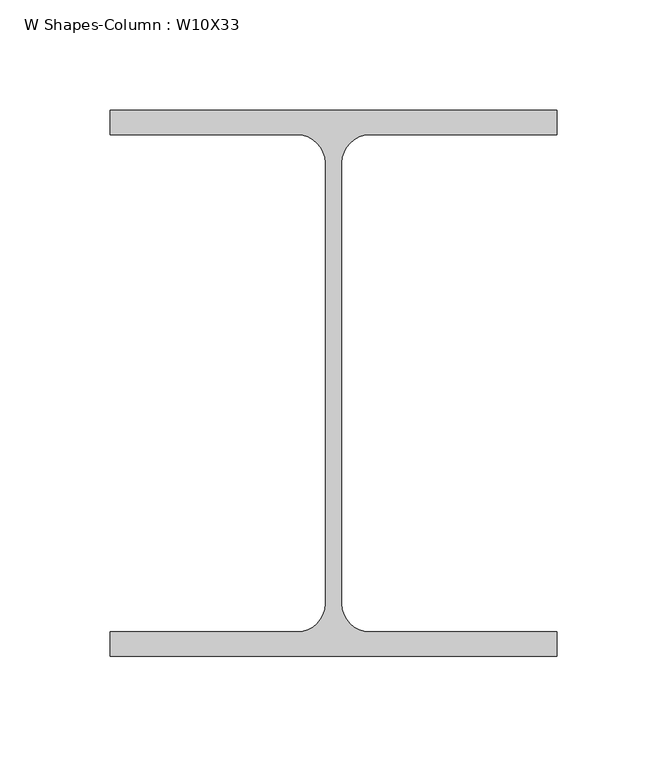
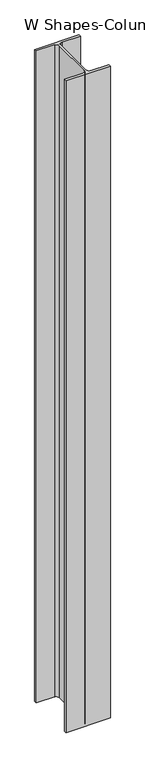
"""IFC4 building model written with IfcOpenShell, lengths in millimetres: column geometry, W Shapes-Column : W10X33."""

from ifc_helpers import new_model, si_unit, point, frame, frame_2d, origin, place, context, project, spatial, polyline, circle_curve, trimmed, segment, composite_curve, outline, extrude, source, transform, mapped, element, save


def w_shapes_column_w10x33_0502d7ff(model_context):
    return source(origin(), model_context, "Body", "SweptSolid", [
        extrude(outline(composite_curve([segment(polyline([(101.092, 123.571), (101.092, 112.522), (16.383, 112.522)]), True, "CONTINUOUS"), segment(trimmed(circle_curve(frame_2d((16.383, 99.822)), 12.7), [point((16.383, 112.522))], [point((3.683, 99.822))], True, "CARTESIAN"), True, "CONTINUOUS"), segment(polyline([(3.683, 99.822), (3.683, -99.822)]), True, "CONTINUOUS"), segment(trimmed(circle_curve(frame_2d((16.383, -99.822)), 12.7), [point((3.683, -99.822))], [point((16.383, -112.522))], True, "CARTESIAN"), True, "CONTINUOUS"), segment(polyline([(16.383, -112.522), (101.092, -112.522), (101.092, -123.571), (-101.092, -123.571), (-101.092, -112.522), (-16.383, -112.522)]), True, "CONTINUOUS"), segment(trimmed(circle_curve(frame_2d((-16.383, -99.822)), 12.7), [point((-16.383, -112.522))], [point((-3.683, -99.822))], True, "CARTESIAN"), True, "CONTINUOUS"), segment(polyline([(-3.683, -99.822), (-3.683, 99.822)]), True, "CONTINUOUS"), segment(trimmed(circle_curve(frame_2d((-16.383, 99.822)), 12.7), [point((-3.683, 99.822))], [point((-16.383, 112.522))], True, "CARTESIAN"), True, "CONTINUOUS"), segment(polyline([(-16.383, 112.522), (-101.092, 112.522), (-101.092, 123.571), (101.092, 123.571)]), True, "CONTINUOUS")], self_intersect=False)), frame((0.0, 0.0, 13411.2), z_axis=(0.0, 0.0, 1.0), x_axis=(1.0, 0.0, 0.0)), (0.0, 0.0, 1.0), 3143.2419141),
    ])


if __name__ == "__main__":
    model = new_model("IFC4")
    model_context = context("Model", 3, world=origin())
    ifc_project = project(units=[si_unit("LENGTHUNIT", "METRE", prefix="MILLI")], contexts=[model_context])
    site = spatial("IfcSite", under=ifc_project)
    building = spatial("IfcBuilding", under=site)
    placement = place(None, origin())
    w_shapes_column_w10x33_shape = w_shapes_column_w10x33_0502d7ff(model_context)
    element("IfcColumn", 1, ObjectType="W Shapes-Column : W10X33", at=placement, inside=building, context=model_context, shape_type="MappedRepresentation", body=[
        mapped(w_shapes_column_w10x33_shape, transform((0.0, 0.0, 0.0), x_axis=(1.0, 0.0, 0.0), y_axis=(0.0, 1.0, 0.0), z_axis=(0.0, 0.0, 1.0))),
    ])
    save(model, "model.ifc")
